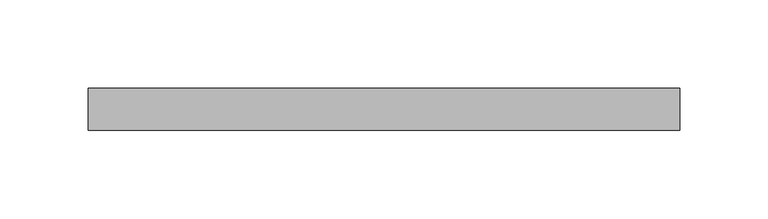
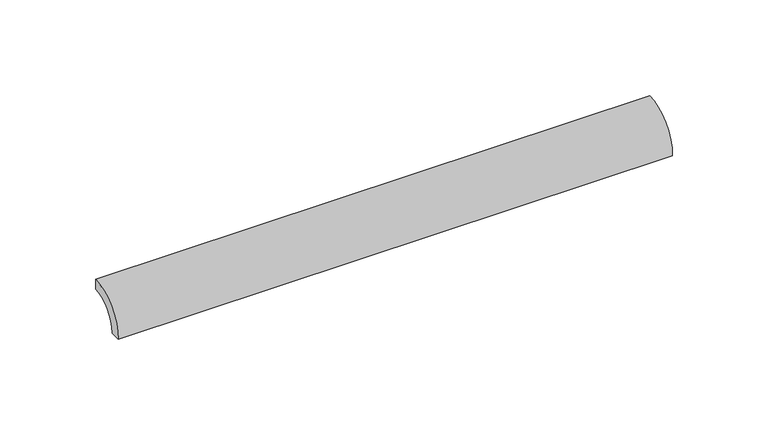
"""IFC4 building model written with IfcOpenShell, lengths in millimetres: proxy geometry, EXAGRES - Piscina Arista : Nubia_33x3cm."""

from ifc_helpers import new_model, si_unit, point, frame, frame_2d, origin, place, context, project, spatial, polyline, circle_curve, trimmed, segment, composite_curve, outline, extrude, source, transform, mapped, element, save


def generic_models_fe2e1876(model_context):
    return source(origin(), model_context, "Body", "SweptSolid", [
        extrude(outline(composite_curve([segment(trimmed(circle_curve(frame_2d((23.9, -23.9)), 23.9), [point((0.0, -23.9))], [point((23.9, 0.0))], False, "CARTESIAN"), True, "CONTINUOUS"), segment(polyline([(23.9, 0.0), (23.9, -6.4)]), True, "CONTINUOUS"), segment(trimmed(circle_curve(frame_2d((23.9, -23.9)), 17.5), [point((23.9, -6.4))], [point((6.4, -23.9))], True, "CARTESIAN"), True, "CONTINUOUS"), segment(polyline([(6.4, -23.9), (0.0, -23.9)]), True, "CONTINUOUS")], self_intersect=False)), frame((0.0, 0.0, 0.0), z_axis=(1.0, 0.0, 0.0), x_axis=(0.0, 1.0, 0.0)), (0.0, 0.0, 1.0), 335.0),
    ])


if __name__ == "__main__":
    model = new_model("IFC4")
    model_context = context("Model", 3, world=origin())
    ifc_project = project(units=[si_unit("LENGTHUNIT", "METRE", prefix="MILLI")], contexts=[model_context])
    site = spatial("IfcSite", under=ifc_project)
    building = spatial("IfcBuilding", under=site)
    placement = place(None, origin())
    generic_models_shape = generic_models_fe2e1876(model_context)
    element("IfcBuildingElementProxy", 1, Name="EXAGRES - Piscina Arista : Nubia_33x3cm", ObjectType="EXAGRES - Piscina Arista : Nubia_33x3cm", at=placement, inside=building, context=model_context, shape_type="MappedRepresentation", body=[
        mapped(generic_models_shape, transform((0.0, 0.0, 0.0), x_axis=(1.0, 0.0, 0.0), y_axis=(0.0, 1.0, 0.0), z_axis=(0.0, 0.0, 1.0))),
    ])
    save(model, "model.ifc")
